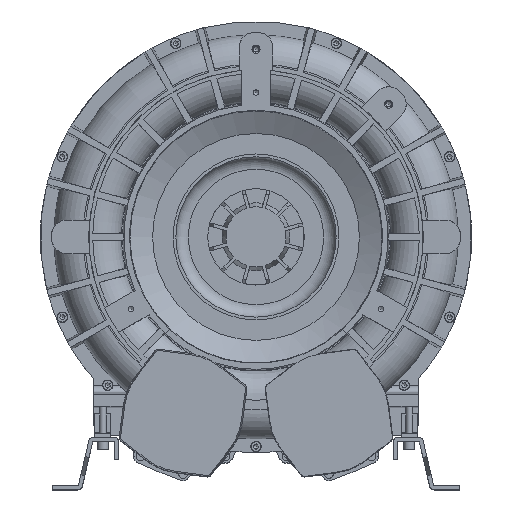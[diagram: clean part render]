
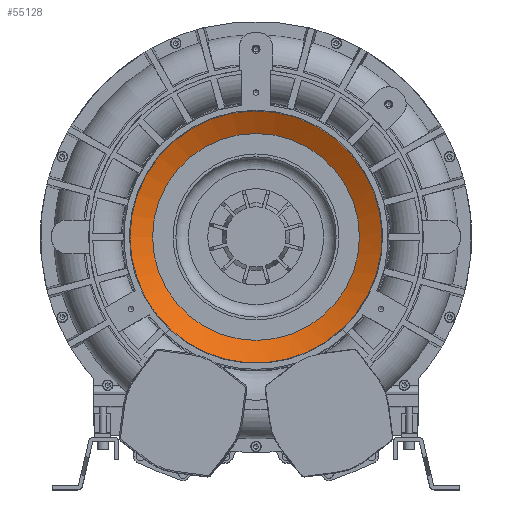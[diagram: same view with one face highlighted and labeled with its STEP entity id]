
A CAD part, top view. The second image highlights one B-rep face of the part: STEP entity #55128.
In plain terms, the highlighted conical face has half-angle 62 degrees and reference radius 129.023 mm.
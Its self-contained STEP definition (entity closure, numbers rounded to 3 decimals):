
#11730 = CARTESIAN_POINT ( 'NONE',  ( 0., 0., 211.491 ) ) ;
#34894 = DIRECTION ( 'NONE',  ( 0., 0., 1. ) ) ;
#44177 = EDGE_CURVE ( 'NONE', #127740, #127740, #104381, .T. ) ;
#47954 = AXIS2_PLACEMENT_3D ( 'NONE', #178650, #34894, #262087 ) ;
#55128 = ADVANCED_FACE ( 'NONE', ( #112946, #115640 ), #218269, .F. ) ;
#69218 = DIRECTION ( 'NONE',  ( 0., 0., 1. ) ) ;
#71886 = DIRECTION ( 'NONE',  ( 1., 0., 0. ) ) ;
#95158 = EDGE_LOOP ( 'NONE', ( #236518 ) ) ;
#95192 = DIRECTION ( 'NONE',  ( 0., 0., -1. ) ) ;
#96539 = DIRECTION ( 'NONE',  ( -1., 0., 0. ) ) ;
#104381 = CIRCLE ( 'NONE', #170058, 157.217 ) ;
#112946 = FACE_OUTER_BOUND ( 'NONE', #95158, .T. ) ;
#113085 = ORIENTED_EDGE ( 'NONE', *, *, #249507, .F. ) ;
#115640 = FACE_BOUND ( 'NONE', #204252, .T. ) ;
#118505 = CARTESIAN_POINT ( 'NONE',  ( -129.023, 0., 196.5 ) ) ;
#127740 = VERTEX_POINT ( 'NONE', #230448 ) ;
#137525 = CARTESIAN_POINT ( 'NONE',  ( 0., 0., 196.5 ) ) ;
#170058 = AXIS2_PLACEMENT_3D ( 'NONE', #11730, #95192, #96539 ) ;
#178650 = CARTESIAN_POINT ( 'NONE',  ( 0., 0., 196.5 ) ) ;
#204252 = EDGE_LOOP ( 'NONE', ( #113085 ) ) ;
#218269 = CONICAL_SURFACE ( 'NONE', #270570, 129.023, 1.082 ) ;
#230448 = CARTESIAN_POINT ( 'NONE',  ( -157.217, 0., 211.491 ) ) ;
#231417 = CIRCLE ( 'NONE', #47954, 129.023 ) ;
#236518 = ORIENTED_EDGE ( 'NONE', *, *, #44177, .F. ) ;
#247124 = VERTEX_POINT ( 'NONE', #118505 ) ;
#249507 = EDGE_CURVE ( 'NONE', #247124, #247124, #231417, .T. ) ;
#262087 = DIRECTION ( 'NONE',  ( -1., 0., 0. ) ) ;
#270570 = AXIS2_PLACEMENT_3D ( 'NONE', #137525, #69218, #71886 ) ;
